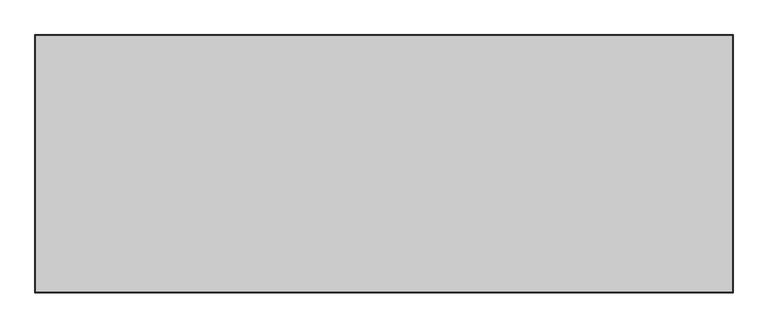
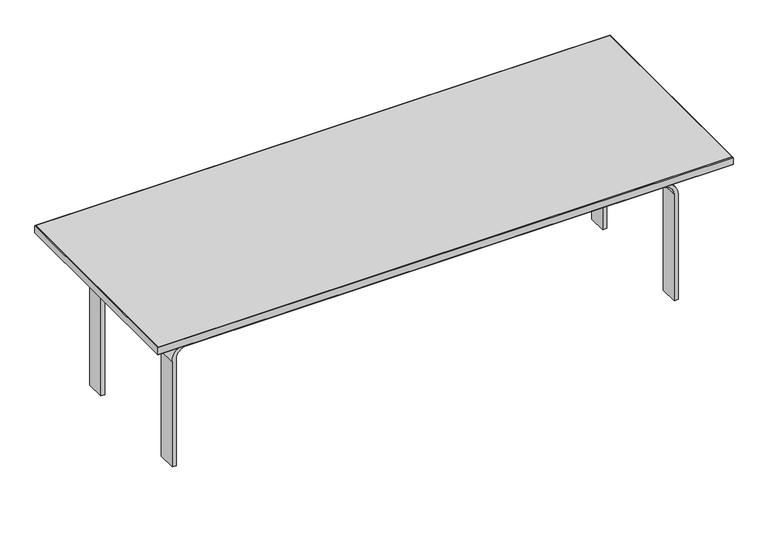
"""IFC4 building model written with IfcOpenShell, lengths in millimetres: furniture geometry, Steelcase Coalesse - Millbrae - Table (1) : Rectangular - 20D x 54W x 15H."""

from ifc_helpers import new_model, si_unit, point, frame, frame_2d, origin, place, context, project, spatial, polyline, circle_curve, trimmed, segment, composite_curve, outline, extrude, faceted_brep, source, transform, mapped, element, save


def furniture_7a884462(model_context):
    return source(origin(), model_context, "Body", "SolidModel", [
        faceted_brep([(189.4297882, 1.015999, 361.95), (189.4297882, 1.015999, 381.0), (189.4297882, 506.9839783, 381.0), (189.4297882, 506.9839783, 361.95), (190.4457872, 0.0, 362.965999), (190.4457872, 507.9999773, 362.965999), (190.4457872, 0.0, 379.984001), (190.4457872, 507.9999773, 379.984001), (-1180.1382118, 506.9839783, 381.0), (-1180.1382118, 506.9839783, 361.95), (-1181.1542108, 507.9999773, 362.965999), (-1181.1542108, 507.9999773, 379.984001), (-1180.1382118, 1.015999, 381.0), (-1180.1382118, 1.015999, 361.95), (-1181.1542108, 0.0, 362.965999), (-1181.1542108, 0.0, 379.984001)], [[[0, 1, 2, 3]], [[4, 0, 3, 5]], [[6, 4, 5, 7]], [[1, 6, 7, 2]], [[3, 2, 8, 9]], [[5, 3, 9, 10]], [[7, 5, 10, 11]], [[2, 7, 11, 8]], [[9, 8, 12, 13]], [[10, 9, 13, 14]], [[11, 10, 14, 15]], [[8, 11, 15, 12]], [[13, 12, 1, 0]], [[14, 13, 0, 4]], [[15, 14, 4, 6]], [[12, 15, 6, 1]]]),
        extrude(outline(polyline([(189.4297882, 506.9839783), (189.4297882, 1.015999), (-1180.1382118, 1.015999), (-1180.1382118, 506.9839783), (189.4297882, 506.9839783)])), frame((0.0, 0.0, 361.95), z_axis=(0.0, 0.0, 1.0), x_axis=(1.0, 0.0, 0.0)), (0.0, 0.0, 1.0), 19.05),
        extrude(outline(composite_curve([segment(trimmed(circle_curve(frame_2d((268.4779922, 72.9708124)), 25.4), [point((293.8779922, 72.9708124))], [point((268.4779922, 98.3708124))], True, "CARTESIAN"), True, "CONTINUOUS"), segment(polyline([(268.4779922, 98.3708124), (0.0, 98.3708124), (0.0, 107.8958124), (265.3029922, 107.8958124)]), True, "CONTINUOUS"), segment(trimmed(circle_curve(frame_2d((265.3029922, 69.7958124)), 38.1), [point((265.3029922, 107.8958124))], [point((303.4029922, 69.7958124))], False, "CARTESIAN"), True, "CONTINUOUS"), segment(polyline([(303.4029922, 69.7958124), (303.4029922, -1060.5042088)]), True, "CONTINUOUS"), segment(trimmed(circle_curve(frame_2d((265.3029922, -1060.5042088)), 38.1), [point((303.4029922, -1060.5042088))], [point((265.3029922, -1098.6042088))], False, "CARTESIAN"), True, "CONTINUOUS"), segment(polyline([(265.3029922, -1098.6042088), (0.0, -1098.6042088), (0.0, -1089.0792088), (268.4779922, -1089.0792088)]), True, "CONTINUOUS"), segment(trimmed(circle_curve(frame_2d((268.4779922, -1063.6792088)), 25.4), [point((268.4779922, -1089.0792088))], [point((293.8779922, -1063.6792088))], True, "CARTESIAN"), True, "CONTINUOUS"), segment(polyline([(293.8779922, -1063.6792088), (293.8779922, 72.9708124)]), True, "CONTINUOUS")], self_intersect=False)), frame((0.0, 379.349, 0.0), z_axis=(0.0, 1.0, 0.0), x_axis=(0.0, 0.0, 1.0)), (0.0, 0.0, 1.0), 44.45),
        extrude(outline(composite_curve([segment(trimmed(circle_curve(frame_2d((268.4779922, 72.9708124)), 25.4), [point((293.8779922, 72.9708124))], [point((268.4779922, 98.3708124))], True, "CARTESIAN"), True, "CONTINUOUS"), segment(polyline([(268.4779922, 98.3708124), (0.0, 98.3708124), (0.0, 107.8958124), (265.3029922, 107.8958124)]), True, "CONTINUOUS"), segment(trimmed(circle_curve(frame_2d((265.3029922, 69.7958124)), 38.1), [point((265.3029922, 107.8958124))], [point((303.4029922, 69.7958124))], False, "CARTESIAN"), True, "CONTINUOUS"), segment(polyline([(303.4029922, 69.7958124), (303.4029922, -1060.5042088)]), True, "CONTINUOUS"), segment(trimmed(circle_curve(frame_2d((265.3029922, -1060.5042088)), 38.1), [point((303.4029922, -1060.5042088))], [point((265.3029922, -1098.6042088))], False, "CARTESIAN"), True, "CONTINUOUS"), segment(polyline([(265.3029922, -1098.6042088), (0.0, -1098.6042088), (0.0, -1089.0792088), (268.4779922, -1089.0792088)]), True, "CONTINUOUS"), segment(trimmed(circle_curve(frame_2d((268.4779922, -1063.6792088)), 25.4), [point((268.4779922, -1089.0792088))], [point((293.8779922, -1063.6792088))], True, "CARTESIAN"), True, "CONTINUOUS"), segment(polyline([(293.8779922, -1063.6792088), (293.8779922, 72.9708124)]), True, "CONTINUOUS")], self_intersect=False)), frame((0.0, 84.201, 0.0), z_axis=(0.0, 1.0, 0.0), x_axis=(0.0, 0.0, 1.0)), (0.0, 0.0, 1.0), 44.45),
        extrude(outline(polyline([(-1028.7542118, 112.7759651), (-1028.7542118, 100.0760136), (-1041.4542088, 100.0760136), (-1041.4542088, 112.7759651), (-1028.7542118, 112.7759651)])), frame((0.0, 0.0, 357.3780044), z_axis=(0.0, 0.0, 1.0), x_axis=(1.0, 0.0, 0.0)), (0.0, 0.0, 1.0), 4.5719956),
        extrude(outline(polyline([(-1028.7542118, 395.2240122), (-1041.4542088, 395.2240122), (-1041.4542088, 407.9239637), (-1028.7542118, 407.9239637), (-1028.7542118, 395.2240122)])), frame((0.0, 0.0, 357.3780044), z_axis=(0.0, 0.0, 1.0), x_axis=(1.0, 0.0, 0.0)), (0.0, 0.0, 1.0), 4.5719956),
        extrude(outline(polyline([(38.0457882, 112.7759651), (50.7457852, 112.7759651), (50.7457852, 100.0760136), (38.0457882, 100.0760136), (38.0457882, 112.7759651)])), frame((0.0, 0.0, 357.3780044), z_axis=(0.0, 0.0, 1.0), x_axis=(1.0, 0.0, 0.0)), (0.0, 0.0, 1.0), 4.5719956),
        extrude(outline(polyline([(38.0457882, 395.2240122), (38.0457882, 407.9239637), (50.7457852, 407.9239637), (50.7457852, 395.2240122), (38.0457882, 395.2240122)])), frame((0.0, 0.0, 357.3780044), z_axis=(0.0, 0.0, 1.0), x_axis=(1.0, 0.0, 0.0)), (0.0, 0.0, 1.0), 4.5719956),
        extrude(outline(polyline([(-1022.4042179, 119.1260136), (-1022.4042179, 93.7259651), (-1047.8042118, 93.7259651), (-1047.8042118, 119.1260136), (-1022.4042179, 119.1260136)])), frame((0.0, 0.0, 303.4029922), z_axis=(0.0, 0.0, 1.0), x_axis=(1.0, 0.0, 0.0)), (0.0, 0.0, 1.0), 44.45),
        extrude(outline(polyline([(31.6957942, 119.1260136), (57.0957882, 119.1260136), (57.0957882, 93.7259651), (31.6957942, 93.7259651), (31.6957942, 119.1260136)])), frame((0.0, 0.0, 303.4029922), z_axis=(0.0, 0.0, 1.0), x_axis=(1.0, 0.0, 0.0)), (0.0, 0.0, 1.0), 44.45),
        extrude(outline(polyline([(-1022.4042179, 388.8739637), (-1047.8042118, 388.8739637), (-1047.8042118, 414.2740122), (-1022.4042179, 414.2740122), (-1022.4042179, 388.8739637)])), frame((0.0, 0.0, 303.4029922), z_axis=(0.0, 0.0, 1.0), x_axis=(1.0, 0.0, 0.0)), (0.0, 0.0, 1.0), 44.45),
        extrude(outline(polyline([(31.6957942, 388.8739637), (31.6957942, 414.2740122), (57.0957882, 414.2740122), (57.0957882, 388.8739637), (31.6957942, 388.8739637)])), frame((0.0, 0.0, 303.4029922), z_axis=(0.0, 0.0, 1.0), x_axis=(1.0, 0.0, 0.0)), (0.0, 0.0, 1.0), 44.45),
        extrude(outline(polyline([(-1012.8792179, 44.4499758), (-1057.3292118, 44.4499758), (-1057.3292118, 463.5500015), (-1012.8792179, 463.5500015), (-1012.8792179, 44.4499758)])), frame((0.0, 0.0, 347.8529922), z_axis=(0.0, 0.0, 1.0), x_axis=(1.0, 0.0, 0.0)), (0.0, 0.0, 1.0), 9.5250121),
        extrude(outline(polyline([(22.1707942, 44.4499758), (22.1707942, 463.5500015), (66.6207882, 463.5500015), (66.6207882, 44.4499758), (22.1707942, 44.4499758)])), frame((0.0, 0.0, 347.8529922), z_axis=(0.0, 0.0, 1.0), x_axis=(1.0, 0.0, 0.0)), (0.0, 0.0, 1.0), 9.5250121),
    ])


if __name__ == "__main__":
    model = new_model("IFC4")
    model_context = context("Model", 3, world=origin())
    ifc_project = project(units=[si_unit("LENGTHUNIT", "METRE", prefix="MILLI")], contexts=[model_context])
    site = spatial("IfcSite", under=ifc_project)
    building = spatial("IfcBuilding", under=site)
    placement = place(None, origin())
    furniture_shape = furniture_7a884462(model_context)
    element("IfcFurniture", 1, ObjectType="Steelcase Coalesse - Millbrae - Table (1) : Rectangular - 20D x 54W x 15H", at=placement, inside=building, context=model_context, shape_type="MappedRepresentation", body=[
        mapped(furniture_shape, transform((0.0, 0.0, 0.0), x_axis=(1.0, 0.0, 0.0), y_axis=(0.0, 1.0, 0.0), z_axis=(0.0, 0.0, 1.0))),
    ])
    save(model, "model.ifc")
